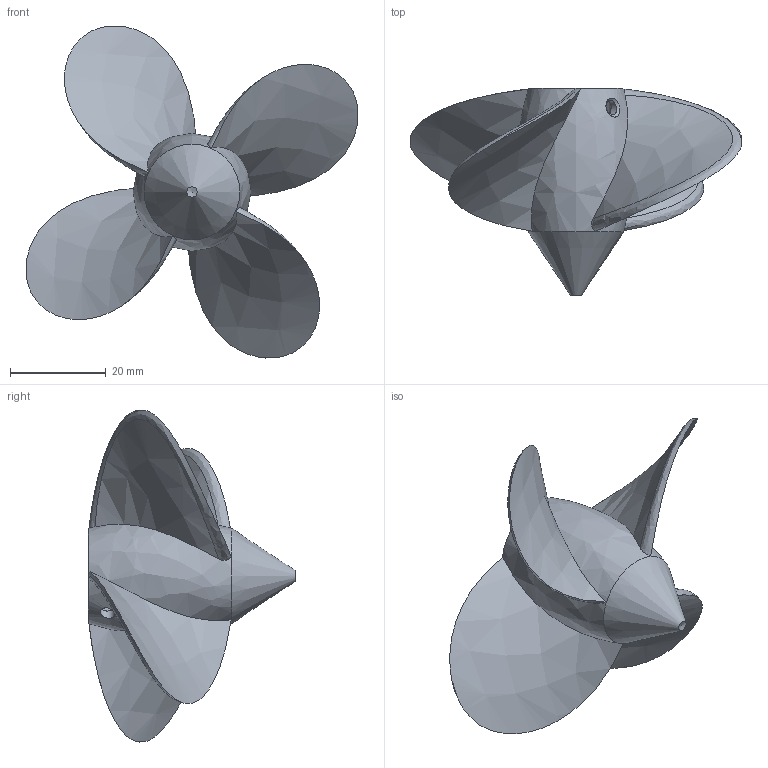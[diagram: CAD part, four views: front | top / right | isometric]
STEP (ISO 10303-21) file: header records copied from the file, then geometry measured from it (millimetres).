
FILE_DESCRIPTION(/* description */ (''),/* implementation_level */ '2;1');
FILE_NAME(/* name */ 'C:\Users\admin\Desktop\inventor\girante_elica\step\girante_elica.stp',/* time_stamp */ '2021-10-24T20:03:17+02:00',/* author */ ('admin'),/* organization */ (''),/* preprocessor_version */ 'ST-DEVELOPER v18.1',/* originating_system */ 'Autodesk Inventor 2022',/* authorisation */ '');
FILE_SCHEMA (('AUTOMOTIVE_DESIGN { 1 0 10303 214 3 1 1 }'));
Length unit declared in the file: millimetre
Products named in the file (2): girante_elica; girante_elica_1
Assembly tree (1 placements, depth 2):
  girante_elica
    girante_elica_1
Bounding box: 69.47 x 43.34 x 69.47 mm (x, y, z)
Volume: 15130.6 mm3; surface area: 10697 mm2
Topology: 1 solids, 1 shells, 25 faces, 77 edges, 53 vertices
Faces by surface type: bspline 17, cylinder 4, cone 3, plane 1
Full cylindrical faces by diameter (mm): 3 x2, 10 x1, 18 x1
Entity records: 2381 total; most frequent: CARTESIAN_POINT 1772, ORIENTED_EDGE 150, EDGE_CURVE 75, B_SPLINE_CURVE_WITH_KNOTS 55, VERTEX_POINT 53, DIRECTION 50, EDGE_LOOP 30, FACE_OUTER_BOUND 25
